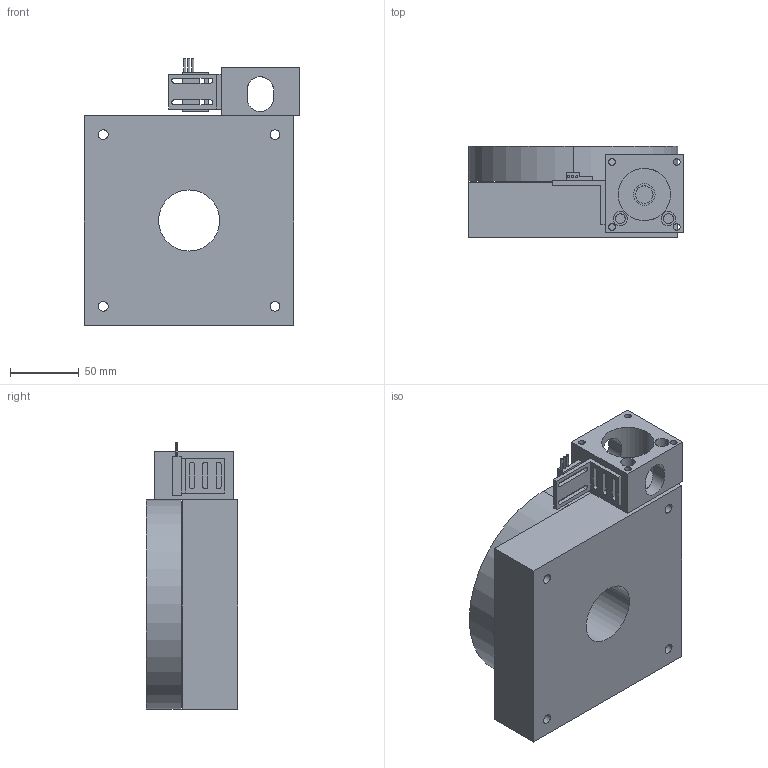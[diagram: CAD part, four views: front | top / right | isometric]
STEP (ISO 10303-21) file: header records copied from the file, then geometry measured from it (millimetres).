
FILE_DESCRIPTION((''),'2;1');
FILE_NAME('M6-ROTARY-T3_ASM','2005-02-18T',('BF20108'),(''),'PRO/ENGINEER BY PARAMETRIC TECHNOLOGY CORPORATION, 2004400','PRO/ENGINEER BY PARAMETRIC TECHNOLOGY CORPORATION, 2004400','');
FILE_SCHEMA(('CONFIG_CONTROL_DESIGN'));
Products named in the file (7): M6RO-BASE; M6RO-TOP-T3; M23-MB-02; 000-4457-SW-BRKT; 003-1145-SWITCH; ROTARY-TBL-HOME-SW_ASM; M6-ROTARY-T3_ASM
Assembly tree (6 placements, depth 3):
  M6-ROTARY-T3_ASM
    M6RO-BASE
    M6RO-TOP-T3
    M23-MB-02
    ROTARY-TBL-HOME-SW_ASM
      000-4457-SW-BRKT
      003-1145-SWITCH
Bounding box: 156.64 x 66.5 x 193.89 mm (x, y, z)
Volume: 1346531.4 mm3; surface area: 159199.1 mm2
Topology: 5 solids, 5 shells, 143 faces, 376 edges, 250 vertices
Faces by surface type: cylinder 84, plane 59
Entity records: 4893 total; most frequent: CARTESIAN_POINT 892, DIRECTION 848, ORIENTED_EDGE 752, EDGE_CURVE 376, AXIS2_PLACEMENT_3D 324, VERTEX_POINT 250, EDGE_LOOP 212, VECTOR 200
